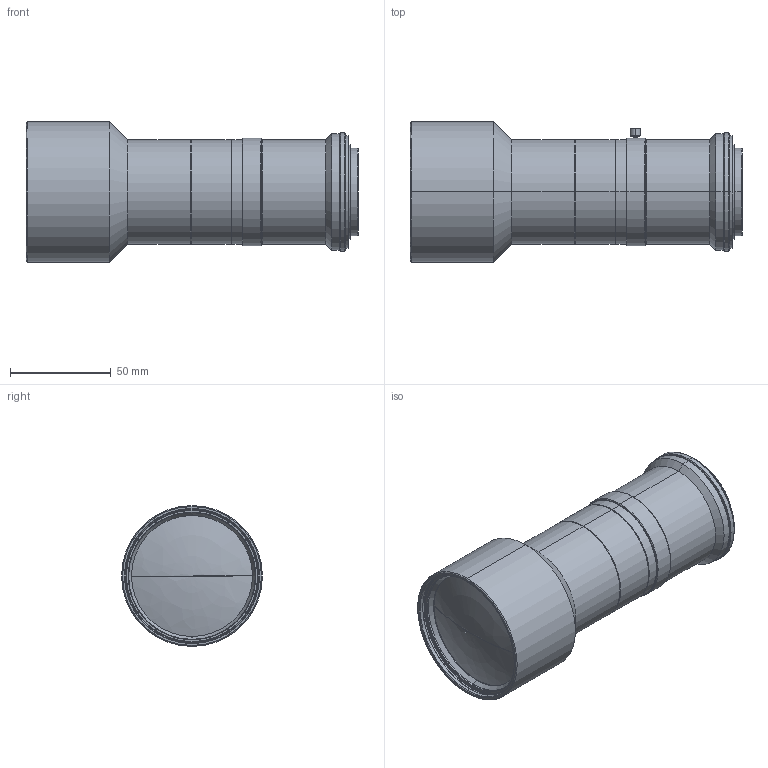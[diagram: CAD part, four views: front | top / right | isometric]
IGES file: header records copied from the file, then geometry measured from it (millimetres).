
Start section: SolidWorks IGES file using analytic representation for surfaces
Global section: file name: C:\Users\tsuji_vst\Documents\【作業フォルダ】\_3D\00 VST\VS-LTC\LTC05-130\VS-LTC05-130_FS.IGS; native system: SolidWorks 2018; preprocessor: SolidWorks 2018; author: tsuji_vst; date: 180614.131834; units: millimetre
Bounding box: 165.1 x 70 x 70 mm (x, y, z)
Surface area: 49218.3 mm2 (no closed solid volume)
Topology: 0 solids, 0 shells, 158 faces, 3406 edges, 3404 vertices
Faces by surface type: revolution 134, bspline 24
